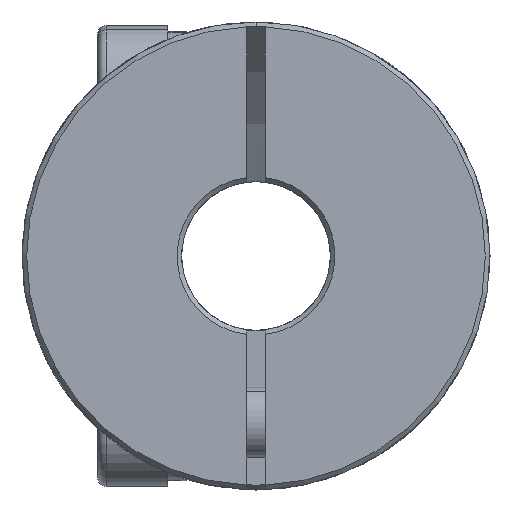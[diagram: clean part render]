
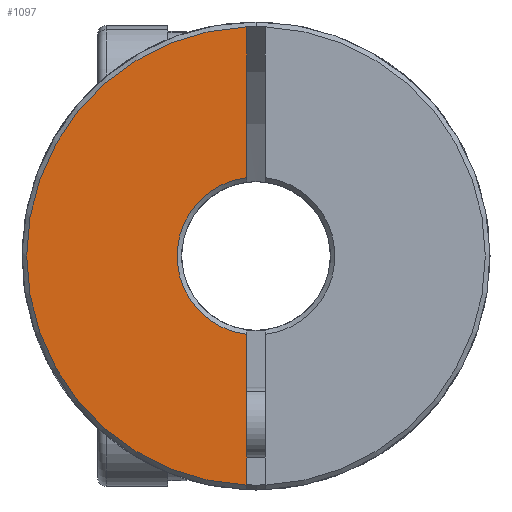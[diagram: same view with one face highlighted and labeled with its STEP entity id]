
A CAD part, front view. The second image highlights one B-rep face of the part: STEP entity #1097.
In plain terms, the highlighted planar face has unit normal (0, -1, 0).
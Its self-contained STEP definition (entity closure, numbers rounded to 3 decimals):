
#233 = AXIS2_PLACEMENT_3D ( 'NONE', #4871, #2576, #3757 ) ;
#557 = DIRECTION ( 'NONE',  ( 0., 0., -1. ) ) ;
#621 = LINE ( 'NONE', #837, #1824 ) ;
#832 = PLANE ( 'NONE',  #233 ) ;
#837 = CARTESIAN_POINT ( 'NONE',  ( -0.4, -17.5, 0. ) ) ;
#1087 = VECTOR ( 'NONE', #557, 1000. ) ;
#1097 = ADVANCED_FACE ( 'NONE', ( #4401 ), #832, .F. ) ;
#1178 = AXIS2_PLACEMENT_3D ( 'NONE', #3107, #7220, #6618 ) ;
#1293 = CARTESIAN_POINT ( 'NONE',  ( -0.4, -17.5, -9.792 ) ) ;
#1420 = EDGE_CURVE ( 'NONE', #3622, #5342, #6217, .T. ) ;
#1651 = LINE ( 'NONE', #4099, #1087 ) ;
#1824 = VECTOR ( 'NONE', #4399, 1000. ) ;
#1864 = ORIENTED_EDGE ( 'NONE', *, *, #1420, .T. ) ;
#1957 = VERTEX_POINT ( 'NONE', #4378 ) ;
#1988 = ORIENTED_EDGE ( 'NONE', *, *, #6099, .F. ) ;
#2029 = EDGE_LOOP ( 'NONE', ( #1988, #4609, #3394, #1864 ) ) ;
#2246 = AXIS2_PLACEMENT_3D ( 'NONE', #5289, #6481, #3005 ) ;
#2520 = CARTESIAN_POINT ( 'NONE',  ( -0.4, -17.5, -3.351 ) ) ;
#2576 = DIRECTION ( 'NONE',  ( 0., 1., 0. ) ) ;
#2740 = CARTESIAN_POINT ( 'NONE',  ( -0.4, -17.5, 3.351 ) ) ;
#3005 = DIRECTION ( 'NONE',  ( 0., 0., 1. ) ) ;
#3107 = CARTESIAN_POINT ( 'NONE',  ( 0., -17.5, 0. ) ) ;
#3394 = ORIENTED_EDGE ( 'NONE', *, *, #6700, .F. ) ;
#3622 = VERTEX_POINT ( 'NONE', #2520 ) ;
#3757 = DIRECTION ( 'NONE',  ( 0., 0., 1. ) ) ;
#4099 = CARTESIAN_POINT ( 'NONE',  ( -0.4, -17.5, 0. ) ) ;
#4378 = CARTESIAN_POINT ( 'NONE',  ( -0.4, -17.5, 9.792 ) ) ;
#4399 = DIRECTION ( 'NONE',  ( 0., 0., -1. ) ) ;
#4401 = FACE_OUTER_BOUND ( 'NONE', #2029, .T. ) ;
#4518 = VERTEX_POINT ( 'NONE', #1293 ) ;
#4609 = ORIENTED_EDGE ( 'NONE', *, *, #7260, .T. ) ;
#4681 = CIRCLE ( 'NONE', #2246, 9.8 ) ;
#4871 = CARTESIAN_POINT ( 'NONE',  ( 0., -17.5, 0. ) ) ;
#5289 = CARTESIAN_POINT ( 'NONE',  ( 0., -17.5, 0. ) ) ;
#5342 = VERTEX_POINT ( 'NONE', #2740 ) ;
#6099 = EDGE_CURVE ( 'NONE', #1957, #5342, #621, .T. ) ;
#6217 = CIRCLE ( 'NONE', #1178, 3.375 ) ;
#6481 = DIRECTION ( 'NONE',  ( 0., -1., 0. ) ) ;
#6618 = DIRECTION ( 'NONE',  ( 0., 0., 1. ) ) ;
#6700 = EDGE_CURVE ( 'NONE', #3622, #4518, #1651, .T. ) ;
#7220 = DIRECTION ( 'NONE',  ( 0., 1., 0. ) ) ;
#7260 = EDGE_CURVE ( 'NONE', #1957, #4518, #4681, .T. ) ;
